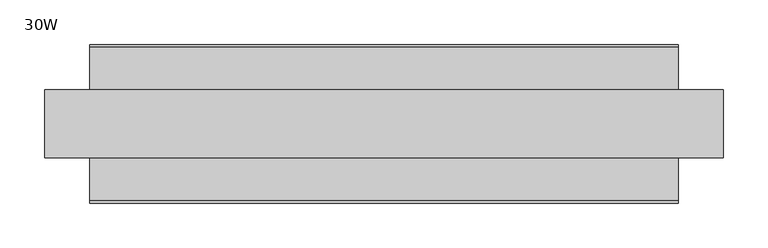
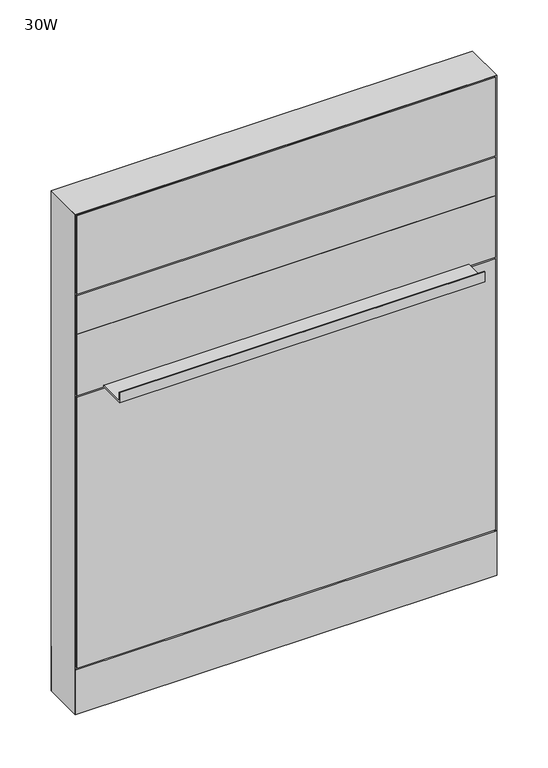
"""IFC4 building model written with IfcOpenShell, lengths in millimetres: furniture geometry, Steelcase - Montage - Frame - 38H - Enhanced Standard - Base and Desk-Height Cavity : 30W."""

from ifc_helpers import new_model, si_unit, point, frame, frame_2d, origin, origin_with_axes, place, context, project, spatial, polyline, circle_curve, trimmed, segment, composite_curve, outline, extrude, faceted_brep, source, transform, mapped, element, save


def furniture_30w_8ceacf86(model_context):
    return source(origin(), model_context, "Body", "SolidModel", [
        extrude(outline(polyline([(3.175, 31.7500194), (3.175, 38.1000194), (758.825, 38.1000194), (758.825, 31.7500194), (3.175, 31.7500194)])), frame((0.0, 0.0, 92.075), z_axis=(0.0, 0.0, 1.0), x_axis=(1.0, 0.0, 0.0)), (0.0, 0.0, 1.0), 517.525),
        extrude(outline(polyline([(88.8960768, 612.775), (38.0960752, 612.775), (38.0960752, 615.315), (86.3560768, 615.315), (86.3560768, 631.825), (88.8960768, 631.825), (88.8960768, 612.775)])), frame((50.8000015, 0.0, 0.0), z_axis=(1.0, 0.0, 0.0), x_axis=(0.0, 1.0, 0.0)), (0.0, 0.0, 1.0), 660.399997),
        extrude(outline(polyline([(3.175, 31.7460752), (3.175, 38.0960752), (758.825, 38.0960752), (758.825, 31.7460752), (3.175, 31.7460752)])), frame((0.0, 0.0, 730.2499516), z_axis=(0.0, 0.0, 1.0), x_axis=(1.0, 0.0, 0.0)), (0.0, 0.0, 1.0), 73.0250484),
        extrude(outline(polyline([(3.175, 31.7460752), (3.175, 38.0960752), (758.825, 38.0960752), (758.825, 31.7460752), (3.175, 31.7460752)])), frame((0.0, 0.0, 612.775), z_axis=(0.0, 0.0, 1.0), x_axis=(1.0, 0.0, 0.0)), (0.0, 0.0, 1.0), 117.4749516),
        extrude(outline(polyline([(3.175, 31.7500194), (3.175, 38.1000194), (758.825, 38.1000194), (758.825, 31.7500194), (3.175, 31.7500194)])), frame((0.0, 0.0, 806.45), z_axis=(0.0, 0.0, 1.0), x_axis=(1.0, 0.0, 0.0)), (0.0, 0.0, 1.0), 149.225),
        extrude(outline(polyline([(3.175, -31.7500194), (758.825, -31.7500194), (758.825, -38.1000194), (3.175, -38.1000194), (3.175, -31.7500194)])), frame((0.0, 0.0, 92.075), z_axis=(0.0, 0.0, 1.0), x_axis=(1.0, 0.0, 0.0)), (0.0, 0.0, 1.0), 517.525),
        extrude(outline(polyline([(-88.8960768, 612.775), (-88.8960768, 631.825), (-86.3560768, 631.825), (-86.3560768, 615.315), (-38.0960752, 615.315), (-38.0960752, 612.775), (-88.8960768, 612.775)])), frame((50.8000015, 0.0, 0.0), z_axis=(1.0, 0.0, 0.0), x_axis=(0.0, 1.0, 0.0)), (0.0, 0.0, 1.0), 660.399997),
        extrude(outline(polyline([(3.175, -31.7460752), (758.825, -31.7460752), (758.825, -38.0960752), (3.175, -38.0960752), (3.175, -31.7460752)])), frame((0.0, 0.0, 730.2499516), z_axis=(0.0, 0.0, 1.0), x_axis=(1.0, 0.0, 0.0)), (0.0, 0.0, 1.0), 73.0250484),
        extrude(outline(polyline([(3.175, -31.7460752), (758.825, -31.7460752), (758.825, -38.0960752), (3.175, -38.0960752), (3.175, -31.7460752)])), frame((0.0, 0.0, 612.775), z_axis=(0.0, 0.0, 1.0), x_axis=(1.0, 0.0, 0.0)), (0.0, 0.0, 1.0), 117.4749516),
        extrude(outline(polyline([(3.175, -31.7500194), (758.825, -31.7500194), (758.825, -38.1000194), (3.175, -38.1000194), (3.175, -31.7500194)])), frame((0.0, 0.0, 806.45), z_axis=(0.0, 0.0, 1.0), x_axis=(1.0, 0.0, 0.0)), (0.0, 0.0, 1.0), 149.225),
        extrude(outline(polyline([(755.6499879, 31.749953), (755.6499879, -31.7499985), (6.35, -31.7499985), (6.35, 31.749953), (755.6499879, 31.749953)])), frame((0.0, 0.0, 809.6250242), z_axis=(0.0, 0.0, 1.0), x_axis=(1.0, 0.0, 0.0)), (0.0, 0.0, 1.0), 142.8749273),
        extrude(outline(polyline([(755.6499879, 31.749953), (755.6499879, -31.7499985), (6.35, -31.7499985), (6.35, 31.749953), (755.6499879, 31.749953)])), frame((0.0, 0.0, 619.125), z_axis=(0.0, 0.0, 1.0), x_axis=(1.0, 0.0, 0.0)), (0.0, 0.0, 1.0), 177.8000242),
        extrude(outline(polyline([(755.6499879, 31.7500016), (755.6499879, -31.7499985), (6.35, -31.7499985), (6.35, 31.7500016), (755.6499879, 31.7500016)])), frame((0.0, 0.0, 88.899997), z_axis=(0.0, 0.0, 1.0), x_axis=(1.0, 0.0, 0.0)), (0.0, 0.0, 1.0), 517.525003),
        extrude(outline(polyline([(6.350003, -31.7499985), (755.649997, -31.7499985), (762.0, -38.1000015), (0.0, -38.1000015), (6.350003, -31.7499985)])), frame((0.0, 0.0, 4.064), z_axis=(0.0, 0.0, 1.0), x_axis=(1.0, 0.0, 0.0)), (0.0, 0.0, 1.0), 84.835997),
        extrude(outline(polyline([(6.3500002, 31.7500017), (0.0, 38.1000015), (762.0, 38.1000015), (755.6500002, 31.7500017), (6.3500002, 31.7500017)])), frame((0.0, 0.0, 4.064), z_axis=(0.0, 0.0, 1.0), x_axis=(1.0, 0.0, 0.0)), (0.0, 0.0, 1.0), 84.835997),
        faceted_brep([(762.0, -38.1000015, 958.85), (0.0, -38.1000015, 958.85), (6.3500484, -31.749953, 952.4999516), (755.6499516, -31.749953, 952.4999516), (6.3500484, 31.749953, 952.4999516), (755.6499516, 31.749953, 952.4999516), (0.0, 38.1000015, 958.85), (762.0, 38.1000015, 958.85)], [[[0, 1, 2, 3]], [[3, 2, 4, 5]], [[6, 7, 5, 4]], [[1, 0, 7, 6]], [[2, 1, 6, 4]], [[0, 3, 5, 7]]]),
        extrude(outline(composite_curve([segment(trimmed(circle_curve(frame_2d((44.45, 0.0)), 15.24), [point((29.21, 0.0))], [point((59.69, 0.0))], False, "CARTESIAN"), True, "CONTINUOUS"), segment(trimmed(circle_curve(frame_2d((44.45, 0.0)), 15.24), [point((59.69, 0.0))], [point((29.21, 0.0))], False, "CARTESIAN"), True, "CONTINUOUS")], self_intersect=False)), origin_with_axes(), (0.0, 0.0, 1.0), 4.064),
        extrude(outline(composite_curve([segment(trimmed(circle_curve(frame_2d((717.55, 0.0)), 15.24), [point((702.31, 0.0))], [point((732.79, 0.0))], False, "CARTESIAN"), True, "CONTINUOUS"), segment(trimmed(circle_curve(frame_2d((717.55, 0.0)), 15.24), [point((732.79, 0.0))], [point((702.31, 0.0))], False, "CARTESIAN"), True, "CONTINUOUS")], self_intersect=False)), origin_with_axes(), (0.0, 0.0, 1.0), 4.064),
        faceted_brep([(762.0, -38.1000106, 4.064), (762.0, 38.1000015, 4.064), (762.0, 38.1000015, 958.85), (762.0, -38.1000106, 958.8499637), (0.0, 38.1000015, 4.064), (0.0, -38.1000015, 4.064), (0.0, -38.1000015, 958.85), (0.0, 38.1000015, 958.85), (755.6499879, 31.7500017, 606.425), (6.35, 31.7500017, 606.425), (6.3499998, 31.7500017, 619.125), (755.6499879, 31.7500017, 619.125), (6.35, -31.7499985, 619.125), (755.6499879, -31.7499985, 619.125), (6.350003, -31.7499985, 606.425), (755.6499879, -31.7499985, 606.425), (755.6499879, 31.7500017, 796.9250242), (6.35, 31.7500017, 796.9250242), (6.3499998, 31.7500017, 809.6250242), (755.6499879, 31.7500017, 809.6250242), (6.35, -31.7499985, 809.6250242), (755.6499879, -31.7499985, 809.6250242), (6.350003, -31.7499985, 796.9250242), (755.6499879, -31.7499985, 796.9250242), (6.35, 31.7500015, 4.064), (6.35, -31.7500015, 4.064), (755.6499879, 31.7499894, 4.064), (755.6499879, -31.7499985, 4.064), (6.35, 31.7500015, 952.5), (6.35, -31.7500015, 952.5), (755.6499879, -31.7499985, 952.4999516), (755.6499879, 31.7499899, 952.4999516)], [[[0, 1, 2, 3]], [[4, 5, 6, 7]], [[8, 9, 10, 11]], [[11, 10, 12, 13]], [[13, 12, 14, 15]], [[9, 8, 15, 14]], [[16, 17, 18, 19]], [[19, 18, 20, 21]], [[21, 20, 22, 23]], [[17, 16, 23, 22]], [[24, 25, 5, 4]], [[26, 1, 0, 27]], [[24, 4, 7, 28, 18, 17, 10, 9]], [[5, 25, 14, 12, 22, 20, 29, 6]], [[25, 24, 9, 14]], [[10, 17, 22, 12]], [[20, 18, 28, 29]], [[26, 27, 15, 8]], [[16, 11, 13, 23]], [[19, 21, 30, 31]], [[27, 0, 3, 30, 21, 23, 13, 15]], [[1, 26, 8, 11, 16, 19, 31, 2]], [[7, 6, 29, 28]], [[3, 2, 31, 30]]]),
    ])


if __name__ == "__main__":
    model = new_model("IFC4")
    model_context = context("Model", 3, world=origin())
    ifc_project = project(units=[si_unit("LENGTHUNIT", "METRE", prefix="MILLI")], contexts=[model_context])
    site = spatial("IfcSite", under=ifc_project)
    building = spatial("IfcBuilding", under=site)
    placement = place(None, origin())
    furniture_30w_shape = furniture_30w_8ceacf86(model_context)
    element("IfcFurniture", 1, ObjectType="Steelcase - Montage - Frame - 38H - Enhanced Standard - Base and Desk-Height Cavity : 30W", at=placement, inside=building, context=model_context, shape_type="MappedRepresentation", body=[
        mapped(furniture_30w_shape, transform((0.0, 0.0, 0.0), x_axis=(1.0, 0.0, 0.0), y_axis=(0.0, 1.0, 0.0), z_axis=(0.0, 0.0, 1.0))),
    ])
    save(model, "model.ifc")
